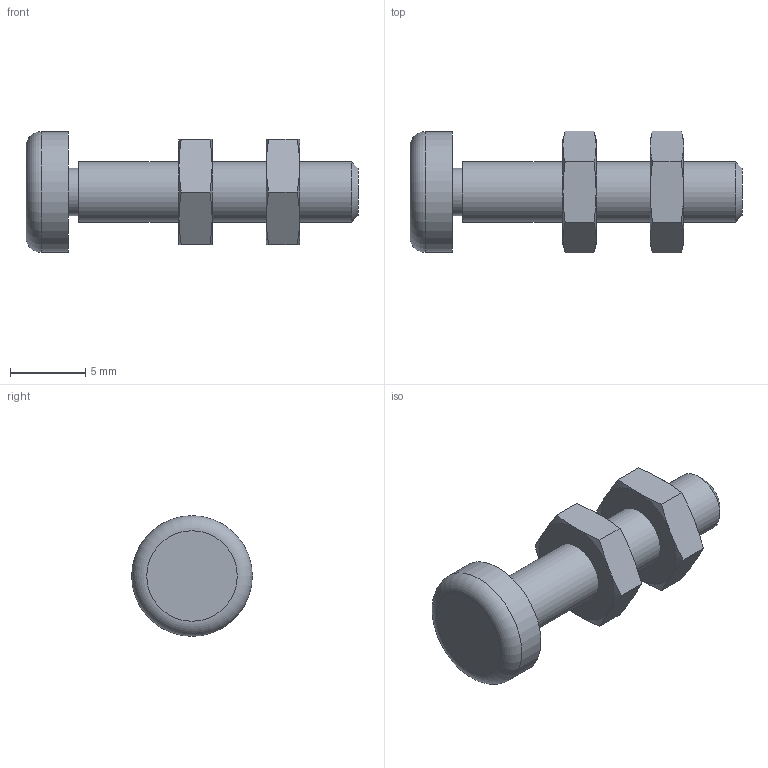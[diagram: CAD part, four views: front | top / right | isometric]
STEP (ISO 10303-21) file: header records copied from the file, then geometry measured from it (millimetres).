
FILE_DESCRIPTION(/* description */ ('205208-M to 307208-M - adjustment spindles incl. 2 fastening nuts'),/* implementation_level */ '2;1');
FILE_NAME(/* name */ 'C:\Local Work Area\Progetti\AP\CALIBRI\92.00 (pressino).iam.stp',/* time_stamp */ '2015-05-15T09:05:42+02:00',/* author */ ('Cadenas PARTsolutions'),/* organization */ (''),/* preprocessor_version */ 'ST-DEVELOPER v15.2',/* originating_system */ 'Autodesk Inventor 2014',/* authorisation */ '');
FILE_SCHEMA (('AUTOMOTIVE_DESIGN { 1 0 10303 214 3 1 1 }'));
Length unit declared in the file: millimetre
Products named in the file (3): 205208_M_001; 205208_M_002; 92.00 (pressino)
Bounding box: 22 x 8.08 x 8 mm (x, y, z)
Volume: 522.2 mm3; surface area: 689.2 mm2
Topology: 3 solids, 3 shells, 51 faces, 106 edges, 63 vertices
Faces by surface type: cone 25, plane 20, cylinder 5, torus 1
Full cylindrical faces by diameter (mm): 3.141 x1, 3.242 x2, 4 x1, 8 x1
Entity records: 775 total; most frequent: CARTESIAN_POINT 170, DIRECTION 122, ORIENTED_EDGE 104, AXIS2_PLACEMENT_3D 58, EDGE_CURVE 52, EDGE_LOOP 40, VERTEX_POINT 34, ADVANCED_FACE 30
